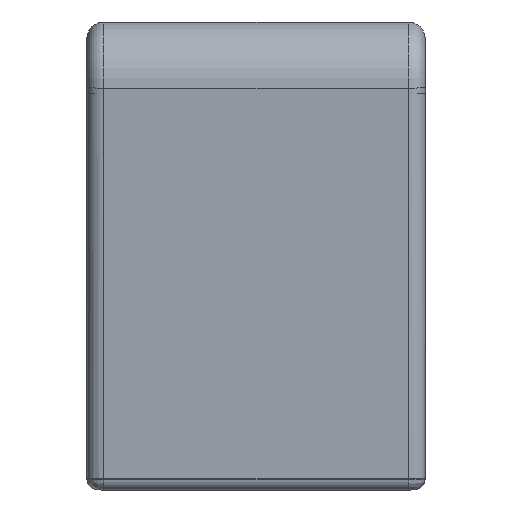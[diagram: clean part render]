
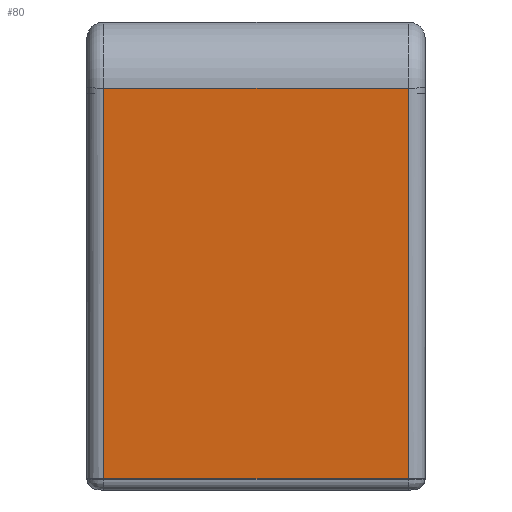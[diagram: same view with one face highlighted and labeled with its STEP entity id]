
A CAD part, left-side view. The second image highlights one B-rep face of the part: STEP entity #80.
In plain terms, the highlighted planar face has unit normal (-0.998, 0, -0.067).
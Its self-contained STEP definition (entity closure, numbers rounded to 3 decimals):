
#80 = ADVANCED_FACE ( 'NONE', ( #2102 ), #4562, .T. ) ;
#143 = EDGE_LOOP ( 'NONE', ( #1587, #1586, #1585, #1584 ) ) ;
#475 = AXIS2_PLACEMENT_3D ( 'NONE', #4560, #4652, #4650 ) ;
#654 = EDGE_CURVE ( 'NONE', #4991, #4965, #2450, .T. ) ;
#655 = EDGE_CURVE ( 'NONE', #4965, #4992, #2452, .T. ) ;
#656 = EDGE_CURVE ( 'NONE', #4992, #4970, #2454, .T. ) ;
#657 = EDGE_CURVE ( 'NONE', #4991, #4970, #2456, .T. ) ;
#1257 = CARTESIAN_POINT ( 'NONE',  ( -365.063, 13.5, -6.067 ) ) ;
#1262 = CARTESIAN_POINT ( 'NONE',  ( -367.388, -13.5, 28.632 ) ) ;
#1283 = CARTESIAN_POINT ( 'NONE',  ( -367.388, 13.5, 28.632 ) ) ;
#1284 = CARTESIAN_POINT ( 'NONE',  ( -365.063, -13.5, -6.067 ) ) ;
#1584 = ORIENTED_EDGE ( 'NONE', *, *, #657, .F. ) ;
#1585 = ORIENTED_EDGE ( 'NONE', *, *, #656, .T. ) ;
#1586 = ORIENTED_EDGE ( 'NONE', *, *, #655, .T. ) ;
#1587 = ORIENTED_EDGE ( 'NONE', *, *, #654, .T. ) ;
#2102 = FACE_OUTER_BOUND ( 'NONE', #143, .T. ) ;
#2450 = LINE ( 'NONE', #4713, #2451 ) ;
#2451 = VECTOR ( 'NONE', #4715, 1000. ) ;
#2452 = LINE ( 'NONE', #4718, #2453 ) ;
#2453 = VECTOR ( 'NONE', #4720, 1000. ) ;
#2454 = LINE ( 'NONE', #4723, #2455 ) ;
#2455 = VECTOR ( 'NONE', #4724, 1000. ) ;
#2456 = LINE ( 'NONE', #4727, #2457 ) ;
#2457 = VECTOR ( 'NONE', #4729, 1000. ) ;
#4560 = CARTESIAN_POINT ( 'NONE',  ( -365., 15., -7. ) ) ;
#4562 = PLANE ( 'NONE',  #475 ) ;
#4650 = DIRECTION ( 'NONE',  ( -0.067, 0., 0.998 ) ) ;
#4652 = DIRECTION ( 'NONE',  ( -0.998, 0., -0.067 ) ) ;
#4713 = CARTESIAN_POINT ( 'NONE',  ( -365., 13.5, -7. ) ) ;
#4715 = DIRECTION ( 'NONE',  ( 0.067, 0., -0.998 ) ) ;
#4718 = CARTESIAN_POINT ( 'NONE',  ( -365.063, 15., -6.067 ) ) ;
#4720 = DIRECTION ( 'NONE',  ( 0., -1., 0. ) ) ;
#4723 = CARTESIAN_POINT ( 'NONE',  ( -367.388, -13.5, 28.632 ) ) ;
#4724 = DIRECTION ( 'NONE',  ( -0.067, 0., 0.998 ) ) ;
#4727 = CARTESIAN_POINT ( 'NONE',  ( -367.388, 15., 28.632 ) ) ;
#4729 = DIRECTION ( 'NONE',  ( 0., -1., 0. ) ) ;
#4965 = VERTEX_POINT ( 'NONE', #1257 ) ;
#4970 = VERTEX_POINT ( 'NONE', #1262 ) ;
#4991 = VERTEX_POINT ( 'NONE', #1283 ) ;
#4992 = VERTEX_POINT ( 'NONE', #1284 ) ;
